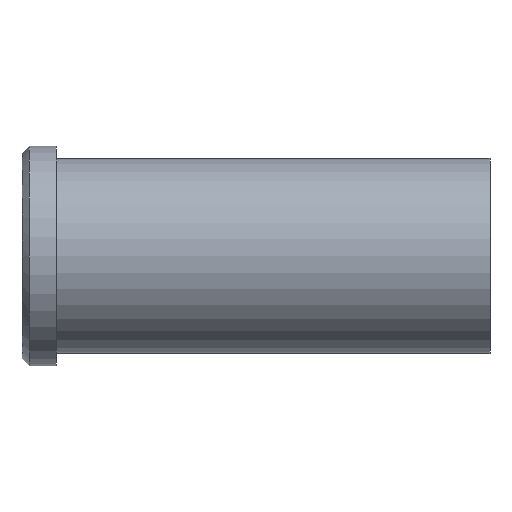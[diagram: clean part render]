
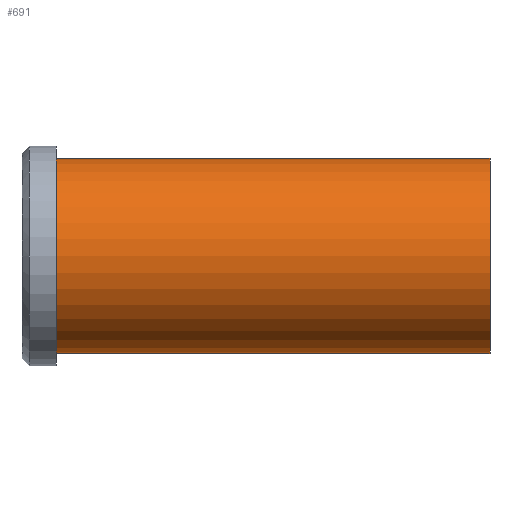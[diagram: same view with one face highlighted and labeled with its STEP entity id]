
A CAD part, front view. The second image highlights one B-rep face of the part: STEP entity #691.
In plain terms, the highlighted cylindrical face has radius 20 mm (diameter 40 mm), a partial arc.
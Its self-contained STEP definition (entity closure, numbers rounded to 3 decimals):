
#501=CARTESIAN_POINT('Vertex',(0.,0.,-20.)) ;
#506=CARTESIAN_POINT('Axis2P3D Location',(0.,0.,0.)) ;
#510=CARTESIAN_POINT('Vertex',(0.,-20.,0.)) ;
#513=CARTESIAN_POINT('Axis2P3D Location',(0.,0.,0.)) ;
#517=CARTESIAN_POINT('Vertex',(0.,0.,20.)) ;
#631=CARTESIAN_POINT('Line Origine',(89.,0.,20.)) ;
#635=CARTESIAN_POINT('Vertex',(89.,0.,20.)) ;
#649=CARTESIAN_POINT('Vertex',(89.,0.,-20.)) ;
#652=CARTESIAN_POINT('Line Origine',(89.,0.,-20.)) ;
#666=CARTESIAN_POINT('Axis2P3D Location',(89.,0.,0.)) ;
#671=CARTESIAN_POINT('Axis2P3D Location',(89.,0.,0.)) ;
#675=CARTESIAN_POINT('Vertex',(89.,-20.,0.)) ;
#678=CARTESIAN_POINT('Axis2P3D Location',(89.,0.,0.)) ;
#507=DIRECTION('Axis2P3D Direction',(1.,0.,-0.)) ;
#514=DIRECTION('Axis2P3D Direction',(1.,0.,-0.)) ;
#632=DIRECTION('Vector Direction',(-1.,0.,0.)) ;
#653=DIRECTION('Vector Direction',(-1.,0.,0.)) ;
#667=DIRECTION('Axis2P3D Direction',(-1.,-0.,-0.)) ;
#668=DIRECTION('Axis2P3D XDirection',(0.,0.,-1.)) ;
#672=DIRECTION('Axis2P3D Direction',(-1.,-0.,-0.)) ;
#679=DIRECTION('Axis2P3D Direction',(-1.,-0.,-0.)) ;
#508=AXIS2_PLACEMENT_3D('Circle Axis2P3D',#506,#507,$) ;
#515=AXIS2_PLACEMENT_3D('Circle Axis2P3D',#513,#514,$) ;
#669=AXIS2_PLACEMENT_3D('Cylinder Axis2P3D',#666,#667,#668) ;
#673=AXIS2_PLACEMENT_3D('Circle Axis2P3D',#671,#672,$) ;
#680=AXIS2_PLACEMENT_3D('Circle Axis2P3D',#678,#679,$) ;
#684=ORIENTED_EDGE('',*,*,#656,.T.) ;
#685=ORIENTED_EDGE('',*,*,#677,.F.) ;
#686=ORIENTED_EDGE('',*,*,#682,.F.) ;
#687=ORIENTED_EDGE('',*,*,#637,.T.) ;
#688=ORIENTED_EDGE('',*,*,#519,.T.) ;
#689=ORIENTED_EDGE('',*,*,#512,.T.) ;
#633=VECTOR('Line Direction',#632,1.) ;
#654=VECTOR('Line Direction',#653,1.) ;
#691=ADVANCED_FACE('353-32X96',(#690),#670,.T.) ;
#509=CIRCLE('generated circle',#508,20.) ;
#516=CIRCLE('generated circle',#515,20.) ;
#674=CIRCLE('generated circle',#673,20.) ;
#681=CIRCLE('generated circle',#680,20.) ;
#670=CYLINDRICAL_SURFACE('generated cylinder',#669,20.) ;
#512=EDGE_CURVE('',#511,#502,#509,.T.) ;
#519=EDGE_CURVE('',#518,#511,#516,.T.) ;
#637=EDGE_CURVE('',#636,#518,#634,.T.) ;
#656=EDGE_CURVE('',#502,#650,#655,.F.) ;
#677=EDGE_CURVE('',#676,#650,#674,.F.) ;
#682=EDGE_CURVE('',#636,#676,#681,.F.) ;
#683=EDGE_LOOP('',(#684,#685,#686,#687,#688,#689)) ;
#690=FACE_OUTER_BOUND('',#683,.T.) ;
#634=LINE('Line',#631,#633) ;
#655=LINE('Line',#652,#654) ;
#502=VERTEX_POINT('',#501) ;
#511=VERTEX_POINT('',#510) ;
#518=VERTEX_POINT('',#517) ;
#636=VERTEX_POINT('',#635) ;
#650=VERTEX_POINT('',#649) ;
#676=VERTEX_POINT('',#675) ;
